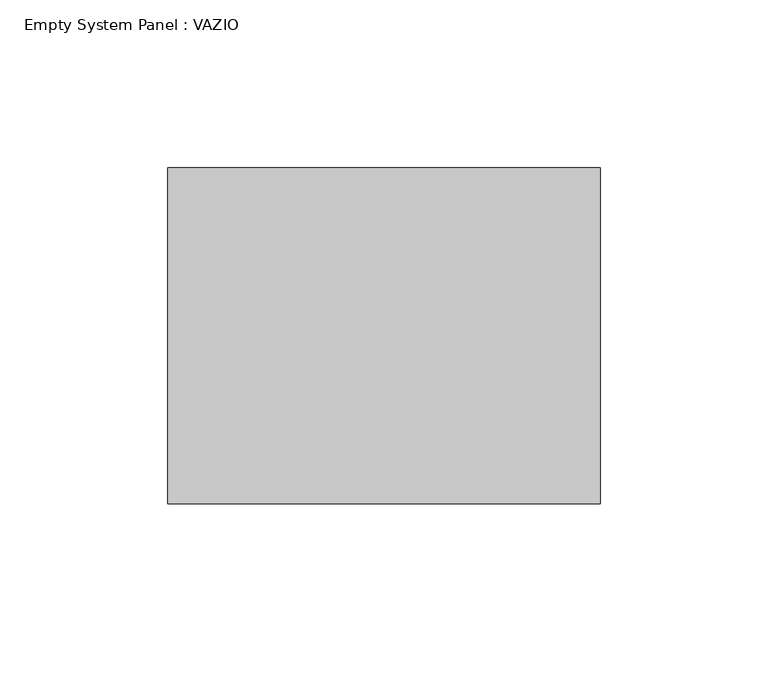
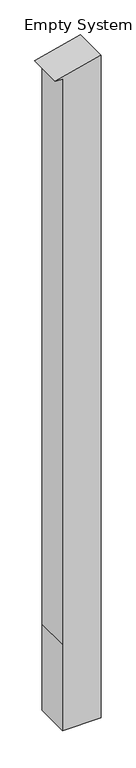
"""IFC4 building model written with IfcOpenShell, lengths in millimetres: plate geometry, Empty System Panel : VAZIO."""

from ifc_helpers import new_model, si_unit, point, frame, frame_2d, origin, place, context, project, spatial, polyline, circle_curve, trimmed, segment, composite_curve, outline, extrude, source, transform, mapped, element, save


def empty_system_panel_vazio_2f86a139(model_context):
    return source(origin(), model_context, "Body", "SweptSolid", [
        extrude(outline(composite_curve([segment(polyline([(0.0, -44.3902439), (0.0, 64.3902439), (256.7936467, 64.3902439), (1972.1572209, 64.3902439)]), True, "CONTINUOUS"), segment(trimmed(circle_curve(frame_2d((3146.6227404, -301.0264279)), 1229.9994311), [point((1972.1572209, 64.3902439))], [point((1939.6008197, -64.3902439))], True, "CARTESIAN"), True, "CONTINUOUS"), segment(polyline([(1939.6008197, -64.3902439), (1939.6008197, -44.3902439), (256.7936467, -44.3902439), (0.0, -44.3902439)]), True, "CONTINUOUS")], self_intersect=False)), frame((0.0, -50.0, 0.0), z_axis=(0.0, 1.0, 0.0), x_axis=(0.0, 0.0, 1.0)), (0.0, 0.0, 1.0), 100.0),
    ])


if __name__ == "__main__":
    model = new_model("IFC4")
    model_context = context("Model", 3, world=origin())
    ifc_project = project(units=[si_unit("LENGTHUNIT", "METRE", prefix="MILLI")], contexts=[model_context])
    site = spatial("IfcSite", under=ifc_project)
    building = spatial("IfcBuilding", under=site)
    placement = place(None, origin())
    empty_system_panel_vazio_shape = empty_system_panel_vazio_2f86a139(model_context)
    element("IfcPlate", 1, ObjectType="Empty System Panel : VAZIO", at=placement, inside=building, context=model_context, shape_type="MappedRepresentation", body=[
        mapped(empty_system_panel_vazio_shape, transform((0.0, 0.0, 0.0), x_axis=(1.0, 0.0, 0.0), y_axis=(0.0, 1.0, 0.0), z_axis=(0.0, 0.0, 1.0))),
    ])
    save(model, "model.ifc")
